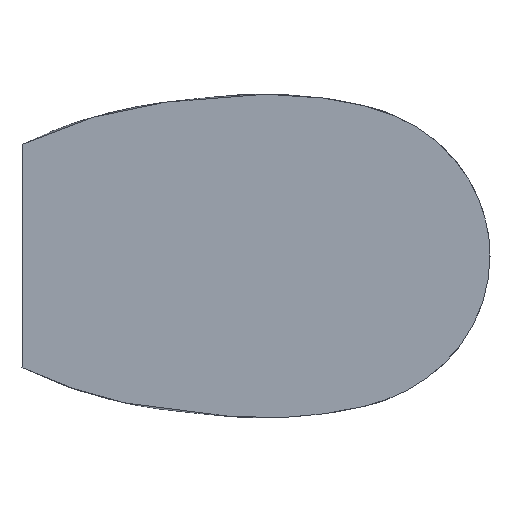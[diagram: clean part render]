
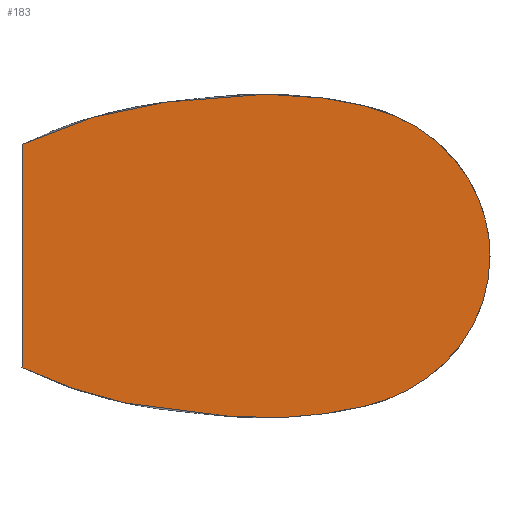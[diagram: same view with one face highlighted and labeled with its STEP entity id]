
A CAD part, left-side view. The second image highlights one B-rep face of the part: STEP entity #183.
In plain terms, the highlighted planar face has unit normal (-1, 0, 0).
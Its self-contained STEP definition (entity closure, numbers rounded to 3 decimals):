
#6=DIRECTION('',(0.,0.,1.));
#7=VECTOR('',#6,1.696);
#8=CARTESIAN_POINT('',(-9.,-0.3,-0.848));
#9=LINE('',#8,#7);
#10=CARTESIAN_POINT('',(-9.,-0.3,0.848));
#11=CARTESIAN_POINT('',(-9.,-0.369,0.881));
#12=CARTESIAN_POINT('',(-9.,-0.509,0.943));
#13=CARTESIAN_POINT('',(-9.,-0.723,1.021));
#14=CARTESIAN_POINT('',(-9.,-0.941,1.085));
#15=CARTESIAN_POINT('',(-9.,-1.163,1.135));
#16=CARTESIAN_POINT('',(-9.,-1.352,1.165));
#17=CARTESIAN_POINT('',(-9.,-1.505,1.181));
#18=CARTESIAN_POINT('',(-9.,-1.621,1.193));
#19=CARTESIAN_POINT('',(-9.,-1.738,1.206));
#20=CARTESIAN_POINT('',(-9.,-1.898,1.222));
#21=CARTESIAN_POINT('',(-9.,-2.114,1.232));
#22=CARTESIAN_POINT('',(-9.,-2.389,1.225));
#23=CARTESIAN_POINT('',(-9.,-2.632,1.196));
#24=CARTESIAN_POINT('',(-9.,-2.827,1.159));
#25=CARTESIAN_POINT('',(-9.,-3.024,1.113));
#26=CARTESIAN_POINT('',(-9.,-3.213,1.035));
#27=CARTESIAN_POINT('',(-9.,-3.385,0.924));
#28=CARTESIAN_POINT('',(-9.,-3.503,0.824));
#29=CARTESIAN_POINT('',(-9.,-3.607,0.711));
#30=CARTESIAN_POINT('',(-9.,-3.696,0.584));
#31=CARTESIAN_POINT('',(-9.,-3.766,0.447));
#32=CARTESIAN_POINT('',(-9.,-3.817,0.302));
#33=CARTESIAN_POINT('',(-9.,-3.848,0.152));
#34=CARTESIAN_POINT('',(-9.,-3.855,0.051));
#35=CARTESIAN_POINT('',(-9.,-3.855,0.));
#37=CARTESIAN_POINT('',(-9.,-3.855,0.));
#38=CARTESIAN_POINT('',(-9.,-3.855,-0.051));
#39=CARTESIAN_POINT('',(-9.,-3.848,-0.152));
#40=CARTESIAN_POINT('',(-9.,-3.817,-0.302));
#41=CARTESIAN_POINT('',(-9.,-3.766,-0.447));
#42=CARTESIAN_POINT('',(-9.,-3.696,-0.584));
#43=CARTESIAN_POINT('',(-9.,-3.607,-0.711));
#44=CARTESIAN_POINT('',(-9.,-3.503,-0.824));
#45=CARTESIAN_POINT('',(-9.,-3.385,-0.924));
#46=CARTESIAN_POINT('',(-9.,-3.213,-1.035));
#47=CARTESIAN_POINT('',(-9.,-3.024,-1.113));
#48=CARTESIAN_POINT('',(-9.,-2.827,-1.159));
#49=CARTESIAN_POINT('',(-9.,-2.632,-1.196));
#50=CARTESIAN_POINT('',(-9.,-2.389,-1.225));
#51=CARTESIAN_POINT('',(-9.,-2.114,-1.232));
#52=CARTESIAN_POINT('',(-9.,-1.898,-1.222));
#53=CARTESIAN_POINT('',(-9.,-1.738,-1.206));
#54=CARTESIAN_POINT('',(-9.,-1.621,-1.193));
#55=CARTESIAN_POINT('',(-9.,-1.505,-1.181));
#56=CARTESIAN_POINT('',(-9.,-1.352,-1.165));
#57=CARTESIAN_POINT('',(-9.,-1.163,-1.135));
#58=CARTESIAN_POINT('',(-9.,-0.941,-1.085));
#59=CARTESIAN_POINT('',(-9.,-0.723,-1.021));
#60=CARTESIAN_POINT('',(-9.,-0.509,-0.943));
#61=CARTESIAN_POINT('',(-9.,-0.369,-0.881));
#62=CARTESIAN_POINT('',(-9.,-0.3,-0.848));
#148=CARTESIAN_POINT('',(-9.,-0.3,-0.848));
#149=CARTESIAN_POINT('',(-9.,-0.3,0.848));
#150=VERTEX_POINT('',#148);
#151=VERTEX_POINT('',#149);
#152=VERTEX_POINT('',#37);
#171=CARTESIAN_POINT('',(-9.,0.,0.));
#172=DIRECTION('',(1.,0.,0.));
#173=DIRECTION('',(0.,0.,-1.));
#174=AXIS2_PLACEMENT_3D('',#171,#172,#173);
#175=PLANE('',#174);
#176=ORIENTED_EDGE('',*,*,#158,.T.);
#178=ORIENTED_EDGE('',*,*,#177,.T.);
#180=ORIENTED_EDGE('',*,*,#179,.T.);
#181=EDGE_LOOP('',(#176,#178,#180));
#182=FACE_OUTER_BOUND('',#181,.F.);
#183=ADVANCED_FACE('',(#182),#175,.F.);
#36=B_SPLINE_CURVE_WITH_KNOTS('',3,(#10,#11,#12,#13,#14,#15,#16,#17,#18,#19,#20,
#21,#22,#23,#24,#25,#26,#27,#28,#29,#30,#31,#32,#33,#34,#35),.UNSPECIFIED.,.F.,
.F.,(4,1,1,1,1,1,1,1,1,1,1,1,1,1,1,1,1,1,1,1,1,1,1,4),(0.,0.054,
0.107,0.16,0.214,0.267,
0.294,0.322,0.349,0.377,
0.434,0.502,0.571,0.606,
0.641,0.713,0.749,0.785,
0.821,0.857,0.893,0.929,
0.964,1.),.UNSPECIFIED.);
#63=B_SPLINE_CURVE_WITH_KNOTS('',3,(#37,#38,#39,#40,#41,#42,#43,#44,#45,#46,#47,
#48,#49,#50,#51,#52,#53,#54,#55,#56,#57,#58,#59,#60,#61,#62),.UNSPECIFIED.,.F.,
.F.,(4,1,1,1,1,1,1,1,1,1,1,1,1,1,1,1,1,1,1,1,1,1,1,4),(0.,0.036,
0.071,0.107,0.143,0.179,
0.215,0.251,0.287,0.359,
0.394,0.429,0.498,0.566,
0.623,0.651,0.678,0.706,
0.733,0.786,0.84,0.893,
0.946,1.),.UNSPECIFIED.);
#158=EDGE_CURVE('',#150,#151,#9,.T.);
#177=EDGE_CURVE('',#151,#152,#36,.T.);
#179=EDGE_CURVE('',#152,#150,#63,.T.);
